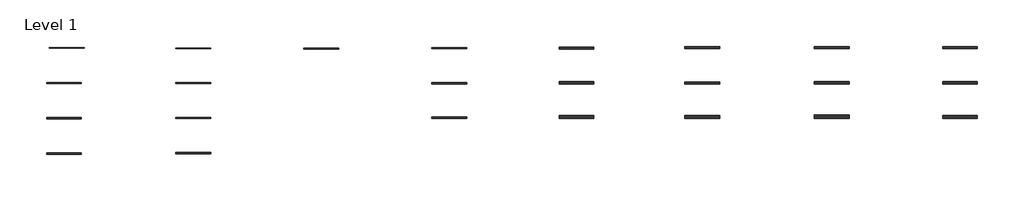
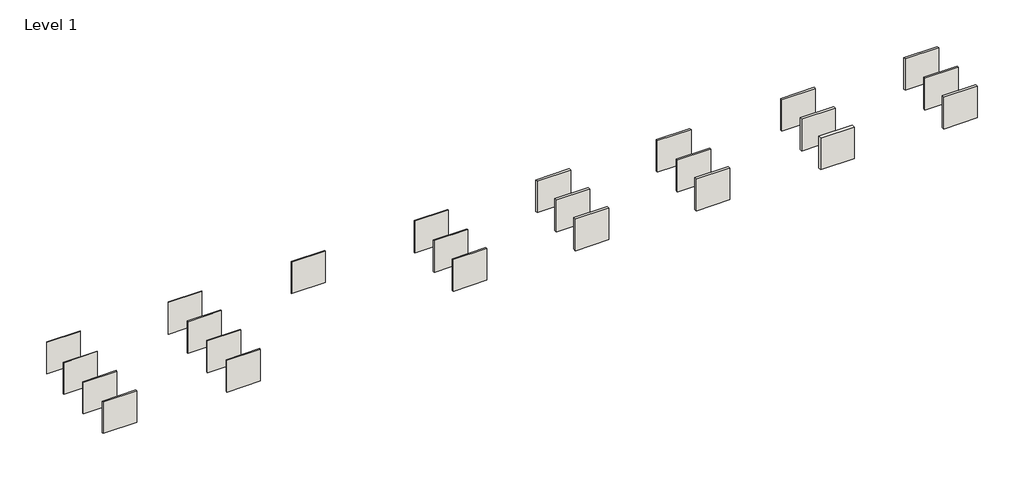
# One storey: 24 walls.
"""IFC4 building model written with IfcOpenShell, lengths in millimetres."""

from ifc_helpers import new_model, si_unit, origin, origin_with_axes, place, context, project, spatial, polyline, outline, extrude, element, save

model = new_model("IFC4")

# Units and contexts
model_context = context("Model", 3, world=origin())
ifc_project = project(units=[si_unit("LENGTHUNIT", "METRE", prefix="MILLI")], contexts=[model_context])

# Site, building, storey
site = spatial("IfcSite", under=ifc_project)
building = spatial("IfcBuilding", under=site)
storey = spatial("IfcBuildingStorey", under=building, Name="Level 1", Elevation=0.0)

# Walls
placement = place(None, origin())
element("IfcWall", 1, ObjectType="VE KR45 450 -/AA M45", at=placement, inside=storey, context=model_context, shape_type="SweptSolid", body=[
    extrude(outline(polyline([(-30763.3840473, -13088.0287508), (-34763.3840473, -13088.0287508), (-34763.3840473, -13018.0287486), (-30763.3840473, -13018.0287486), (-30763.3840473, -13088.0287508)])), origin_with_axes(), (0.0, 0.0, 1.0), 4000.0),
])
element("IfcWall", 2, ObjectType="VE KR70 450 -/AA M45", at=placement, inside=storey, context=model_context, shape_type="SweptSolid", body=[
    extrude(outline(polyline([(-31095.4888651, -17128.6373672), (-35095.4888651, -17128.6373672), (-35095.4888651, -17033.6373642), (-31095.4888651, -17033.6373642), (-31095.4888651, -17128.6373672)])), origin_with_axes(), (0.0, 0.0, 1.0), 4000.0),
])
element("IfcWall", 3, ObjectType="VE KR95 450 -/AA M45", at=placement, inside=storey, context=model_context, shape_type="SweptSolid", body=[
    extrude(outline(polyline([(-31095.4888651, -21196.9213851), (-35095.4888651, -21196.9213851), (-35095.4888651, -21076.9213812), (-31095.4888651, -21076.9213812), (-31095.4888651, -21196.9213851)])), origin_with_axes(), (0.0, 0.0, 1.0), 4000.0),
])
element("IfcWall", 4, ObjectType="VE KR120 450 -/AA M45", at=placement, inside=storey, context=model_context, shape_type="SweptSolid", body=[
    extrude(outline(polyline([(-31095.4888651, -25265.2054029), (-35095.4888651, -25265.2054029), (-35095.4888651, -25120.2053983), (-31095.4888651, -25120.2053983), (-31095.4888651, -25265.2054029)])), origin_with_axes(), (0.0, 0.0, 1.0), 4000.0),
])
element("IfcWall", 5, ObjectType="VE KR45 450 -/AAA M45", at=placement, inside=storey, context=model_context, shape_type="SweptSolid", body=[
    extrude(outline(polyline([(-16289.1490722, -13143.3795538), (-20289.1490722, -13143.3795538), (-20289.1490722, -13058.379551), (-16289.1490722, -13058.379551), (-16289.1490722, -13143.3795538)])), origin_with_axes(), (0.0, 0.0, 1.0), 4000.0),
])
element("IfcWall", 6, ObjectType="VE KR70 450 -/AAA M45", at=placement, inside=storey, context=model_context, shape_type="SweptSolid", body=[
    extrude(outline(polyline([(-16289.1490722, -17128.6373672), (-20289.1490722, -17128.6373672), (-20289.1490722, -17018.6373637), (-16289.1490722, -17018.6373637), (-16289.1490722, -17128.6373672)])), origin_with_axes(), (0.0, 0.0, 1.0), 4000.0),
])
element("IfcWall", 7, ObjectType="VE KR95 450 -/AAA M45", at=placement, inside=storey, context=model_context, shape_type="SweptSolid", body=[
    extrude(outline(polyline([(-16289.1490722, -21169.2459836), (-20289.1490722, -21169.2459836), (-20289.1490722, -21034.2459793), (-16289.1490722, -21034.2459793), (-16289.1490722, -21169.2459836)])), origin_with_axes(), (0.0, 0.0, 1.0), 4000.0),
])
element("IfcWall", 8, ObjectType="VE KR120 450 -/AAA M45", at=placement, inside=storey, context=model_context, shape_type="SweptSolid", body=[
    extrude(outline(polyline([(-16289.1490722, -25209.8546), (-20289.1490722, -25209.8546), (-20289.1490722, -25049.8545949), (-16289.1490722, -25049.8545949), (-16289.1490722, -25209.8546)])), origin_with_axes(), (0.0, 0.0, 1.0), 4000.0),
])
element("IfcWall", 9, ObjectType="VE KR45 450 AA/AA M45", at=placement, inside=storey, context=model_context, shape_type="SweptSolid", body=[
    extrude(outline(polyline([(-1621.1862866, -13171.0549552), (-5621.1862866, -13171.0549552), (-5621.1862866, -13076.0549522), (-1621.1862866, -13076.0549522), (-1621.1862866, -13171.0549552)])), origin_with_axes(), (0.0, 0.0, 1.0), 4000.0),
])
element("IfcWall", 10, ObjectType="VE KR70 450 AA/AA M45", at=placement, inside=storey, context=model_context, shape_type="SweptSolid", body=[
    extrude(outline(polyline([(13074.4519004, -13162.7523348), (9074.4519004, -13162.7523348), (9074.4519004, -13042.752331), (13074.4519004, -13042.752331), (13074.4519004, -13162.7523348)])), origin_with_axes(), (0.0, 0.0, 1.0), 4000.0),
])
element("IfcWall", 11, ObjectType="VE KR95 450 AA/AA M45", at=placement, inside=storey, context=model_context, shape_type="SweptSolid", body=[
    extrude(outline(polyline([(13074.4519004, -17204.7447213), (9074.4519004, -17204.7447213), (9074.4519004, -17059.7447166), (13074.4519004, -17059.7447166), (13074.4519004, -17204.7447213)])), origin_with_axes(), (0.0, 0.0, 1.0), 4000.0),
])
element("IfcWall", 12, ObjectType="VE KR120 450 AA/AA M45", at=placement, inside=storey, context=model_context, shape_type="SweptSolid", body=[
    extrude(outline(polyline([(13074.4519004, -21151.2569726), (9074.4519004, -21151.2569726), (9074.4519004, -20981.2569672), (13074.4519004, -20981.2569672), (13074.4519004, -21151.2569726)])), origin_with_axes(), (0.0, 0.0, 1.0), 4000.0),
])
element("IfcWall", 13, ObjectType="VD KR70 450 AA/AA M140", at=placement, inside=storey, context=model_context, shape_type="SweptSolid", body=[
    extrude(outline(polyline([(27657.4790518, -13201.6644682), (23657.4790518, -13201.6644682), (23657.4790518, -12971.6644608), (27657.4790518, -12971.6644608), (27657.4790518, -13201.6644682)])), origin_with_axes(), (0.0, 0.0, 1.0), 4000.0),
])
element("IfcWall", 14, ObjectType="VD KR95 450 AA/AA M140", at=placement, inside=storey, context=model_context, shape_type="SweptSolid", body=[
    extrude(outline(polyline([(27657.4790518, -17204.7447213), (23657.4790518, -17204.7447213), (23657.4790518, -16904.7447117), (27657.4790518, -16904.7447117), (27657.4790518, -17204.7447213)])), origin_with_axes(), (0.0, 0.0, 1.0), 4000.0),
])
element("IfcWall", 15, ObjectType="VD KR120 450 AA/AA M140", at=placement, inside=storey, context=model_context, shape_type="SweptSolid", body=[
    extrude(outline(polyline([(27657.4790518, -21151.2569726), (23657.4790518, -21151.2569726), (23657.4790518, -20801.2569614), (27657.4790518, -20801.2569614), (27657.4790518, -21151.2569726)])), origin_with_axes(), (0.0, 0.0, 1.0), 4000.0),
])
element("IfcWall", 16, ObjectType="VD KR70 450 AAA/AAA M140", at=placement, inside=storey, context=model_context, shape_type="SweptSolid", body=[
    extrude(outline(polyline([(42078.9856413, -13122.1494073), (38078.9856413, -13122.1494073), (38078.9856413, -12897.1494001), (42078.9856413, -12897.1494001), (42078.9856413, -13122.1494073)])), origin_with_axes(), (0.0, 0.0, 1.0), 4000.0),
])
element("IfcWall", 17, ObjectType="VD KR95 450 AAA/AAA M140", at=placement, inside=storey, context=model_context, shape_type="SweptSolid", body=[
    extrude(outline(polyline([(42078.9856413, -17221.4298749), (38078.9856413, -17221.4298749), (38078.9856413, -16956.4298664), (42078.9856413, -16956.4298664), (42078.9856413, -17221.4298749)])), origin_with_axes(), (0.0, 0.0, 1.0), 4000.0),
])
element("IfcWall", 18, ObjectType="VD KR120 450 AAA/AAA M140", at=placement, inside=storey, context=model_context, shape_type="SweptSolid", body=[
    extrude(outline(polyline([(42078.9856413, -21151.2569726), (38078.9856413, -21151.2569726), (38078.9856413, -20836.2569625), (42078.9856413, -20836.2569625), (42078.9856413, -21151.2569726)])), origin_with_axes(), (0.0, 0.0, 1.0), 4000.0),
])
element("IfcWall", 19, ObjectType="VD KR70 450 FF/FF M140", at=placement, inside=storey, context=model_context, shape_type="SweptSolid", body=[
    extrude(outline(polyline([(56911.8246311, -13122.1494073), (52911.8246311, -13122.1494073), (52911.8246311, -12892.1494), (56911.8246311, -12892.1494), (56911.8246311, -13122.1494073)])), origin_with_axes(), (0.0, 0.0, 1.0), 4000.0),
])
element("IfcWall", 20, ObjectType="VD KR95 450 FF/FF M140", at=placement, inside=storey, context=model_context, shape_type="SweptSolid", body=[
    extrude(outline(polyline([(56911.8246311, -17221.4298749), (52911.8246311, -17221.4298749), (52911.8246311, -16911.429865), (56911.8246311, -16911.429865), (56911.8246311, -17221.4298749)])), origin_with_axes(), (0.0, 0.0, 1.0), 4000.0),
])
element("IfcWall", 21, ObjectType="VD KR120 450 FF/FF M140", at=placement, inside=storey, context=model_context, shape_type="SweptSolid", body=[
    extrude(outline(polyline([(56911.8246311, -21151.2569726), (52911.8246311, -21151.2569726), (52911.8246311, -20791.2569611), (56911.8246311, -20791.2569611), (56911.8246311, -21151.2569726)])), origin_with_axes(), (0.0, 0.0, 1.0), 4000.0),
])
element("IfcWall", 22, ObjectType="VD KR70 450 AFF/FFA M140", at=placement, inside=storey, context=model_context, shape_type="SweptSolid", body=[
    extrude(outline(polyline([(71625.3134521, -13122.1494073), (67625.3134521, -13122.1494073), (67625.3134521, -12887.1493998), (71625.3134521, -12887.1493998), (71625.3134521, -13122.1494073)])), origin_with_axes(), (0.0, 0.0, 1.0), 4000.0),
])
element("IfcWall", 23, ObjectType="VD KR120 450 AFF/FFA M140", at=placement, inside=storey, context=model_context, shape_type="SweptSolid", body=[
    extrude(outline(polyline([(71625.3134521, -21151.2569726), (67625.3134521, -21151.2569726), (67625.3134521, -20826.2569622), (71625.3134521, -20826.2569622), (71625.3134521, -21151.2569726)])), origin_with_axes(), (0.0, 0.0, 1.0), 4000.0),
])
element("IfcWall", 24, ObjectType="VD KR95 450 AFF/FFA M140", at=placement, inside=storey, context=model_context, shape_type="SweptSolid", body=[
    extrude(outline(polyline([(71625.3134521, -17221.4298749), (67625.3134521, -17221.4298749), (67625.3134521, -16946.4298661), (71625.3134521, -16946.4298661), (71625.3134521, -17221.4298749)])), origin_with_axes(), (0.0, 0.0, 1.0), 4000.0),
])

save(model, "model.ifc")
